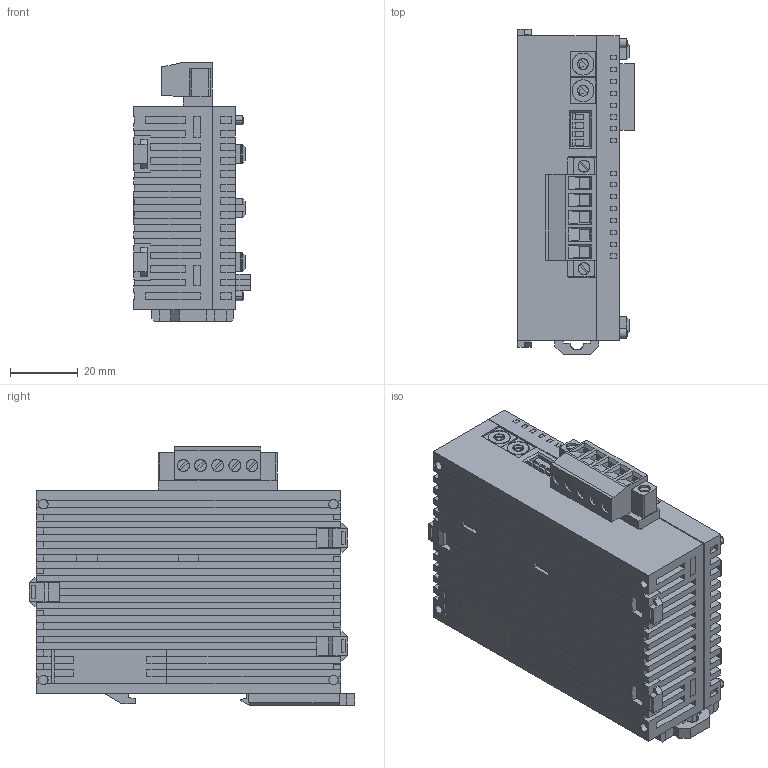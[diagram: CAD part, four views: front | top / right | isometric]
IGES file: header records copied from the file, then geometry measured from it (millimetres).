
Global section: preprocessor: SolidWorks 2008; organization: PanasonicElectricWorks; date: 090825.145621; units: millimetre
Bounding box: 34.5 x 96.1 x 76.5 mm (x, y, z)
Surface area: 27954.5 mm2 (no closed solid volume)
Topology: 0 solids, 0 shells, 1003 faces, 6608 edges, 6608 vertices
Faces by surface type: bspline 936, revolution 67
